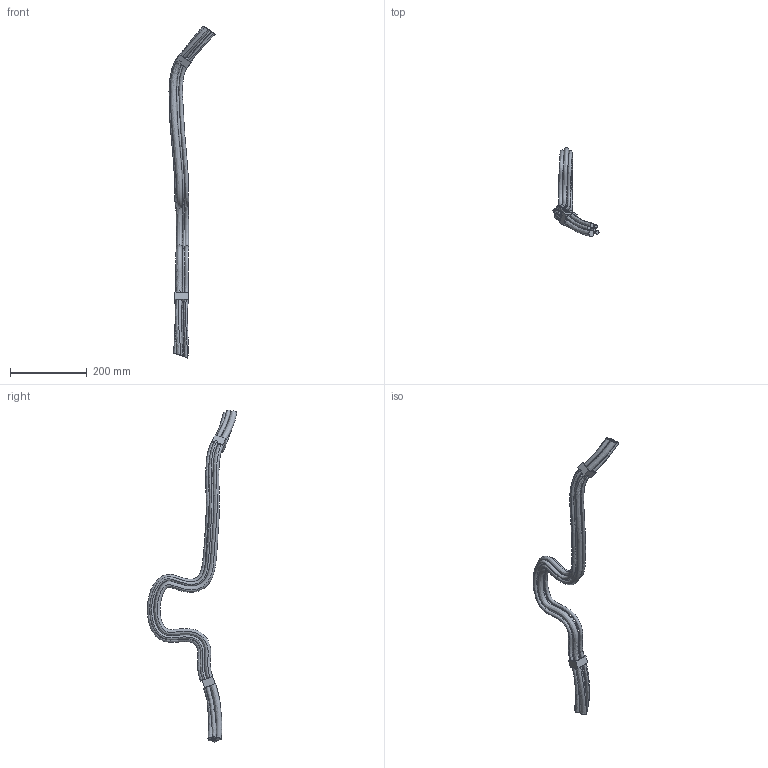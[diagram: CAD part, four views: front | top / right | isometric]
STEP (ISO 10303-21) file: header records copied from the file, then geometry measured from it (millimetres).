
FILE_DESCRIPTION (( 'STEP AP214' ), '1' );
FILE_NAME ('IRB4600_45kg-205_CABLES_LINK2_rev03.STEP', '2016-12-06T10:32:00', ( 'ABB' ), ( 'ABB' ), 'SwSTEP 2.0', 'SolidWorks 2014', '' );
FILE_SCHEMA (( 'AUTOMOTIVE_DESIGN' ));
Length unit declared in the file: millimetre
Products named in the file (1): IRB4600_45kg-205_CABLES_LINK2_rev03
Bounding box: 120.05 x 233.12 x 866.24 mm (x, y, z)
Volume: 618552.6 mm3; surface area: 216284.1 mm2
Topology: 1 solids, 1 shells, 66 faces, 172 edges, 109 vertices
Faces by surface type: bspline 36, plane 30
Entity records: 11618 total; most frequent: CARTESIAN_POINT 10387, ORIENTED_EDGE 336, EDGE_CURVE 168, DIRECTION 119, VERTEX_POINT 107, B_SPLINE_CURVE_WITH_KNOTS 80, EDGE_LOOP 79, ADVANCED_FACE 66
